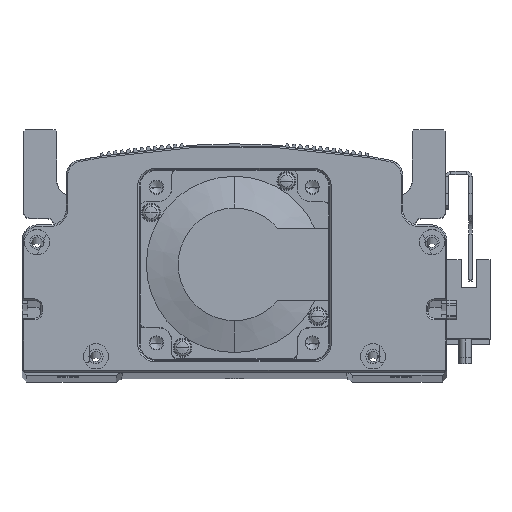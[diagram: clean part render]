
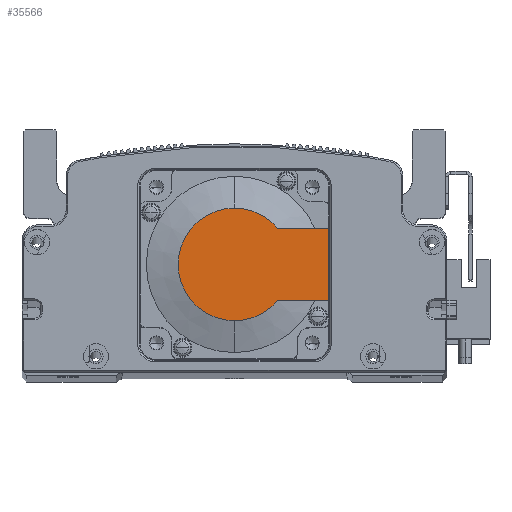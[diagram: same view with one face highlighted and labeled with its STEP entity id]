
A CAD part, top view. The second image highlights one B-rep face of the part: STEP entity #35566.
In plain terms, the highlighted planar face has unit normal (0, 0, 1) as drawn and (-1, 0, 0) by its records, which use the part's own axes.
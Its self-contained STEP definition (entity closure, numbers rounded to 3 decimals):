
#1544 = PLANE ( 'NONE',  #55848 ) ;
#1636 = DIRECTION ( 'NONE',  ( 0., 0., -1. ) ) ;
#2002 = CARTESIAN_POINT ( 'NONE',  ( -118.5, -8.941, 0. ) ) ;
#3613 = EDGE_LOOP ( 'NONE', ( #61997, #60047, #44376, #47763, #40219, #40871 ) ) ;
#4918 = CARTESIAN_POINT ( 'NONE',  ( -118.5, 30., -11.45 ) ) ;
#7545 = DIRECTION ( 'NONE',  ( 0., 0., 1. ) ) ;
#9042 = AXIS2_PLACEMENT_3D ( 'NONE', #69641, #20174, #52706 ) ;
#10648 = EDGE_CURVE ( 'NONE', #30078, #18039, #62584, .T. ) ;
#13603 = DIRECTION ( 'NONE',  ( -1., 0., 0. ) ) ;
#14035 = LINE ( 'NONE', #26525, #61060 ) ;
#17140 = FACE_OUTER_BOUND ( 'NONE', #3613, .T. ) ;
#18039 = VERTEX_POINT ( 'NONE', #64106 ) ;
#20174 = DIRECTION ( 'NONE',  ( -1., 0., 0. ) ) ;
#21126 = CARTESIAN_POINT ( 'NONE',  ( -118.5, 0., -17.881 ) ) ;
#24014 = CARTESIAN_POINT ( 'NONE',  ( -118.5, 0., 0. ) ) ;
#26525 = CARTESIAN_POINT ( 'NONE',  ( -118.5, 0., 11.45 ) ) ;
#29913 = CARTESIAN_POINT ( 'NONE',  ( -118.5, 13.735, 11.45 ) ) ;
#30078 = VERTEX_POINT ( 'NONE', #4918 ) ;
#30936 = VECTOR ( 'NONE', #57024, 1000. ) ;
#32018 = CIRCLE ( 'NONE', #9042, 17.881 ) ;
#33170 = EDGE_CURVE ( 'NONE', #33242, #42417, #32018, .T. ) ;
#33242 = VERTEX_POINT ( 'NONE', #21126 ) ;
#33462 = VECTOR ( 'NONE', #70102, 1000. ) ;
#34875 = VERTEX_POINT ( 'NONE', #45569 ) ;
#34954 = DIRECTION ( 'NONE',  ( -1., 0., 0. ) ) ;
#35566 = ADVANCED_FACE ( 'NONE', ( #17140 ), #1544, .T. ) ;
#40211 = DIRECTION ( 'NONE',  ( -1., 0., 0. ) ) ;
#40219 = ORIENTED_EDGE ( 'NONE', *, *, #49041, .F. ) ;
#40680 = DIRECTION ( 'NONE',  ( 0., 0., -1. ) ) ;
#40871 = ORIENTED_EDGE ( 'NONE', *, *, #49810, .F. ) ;
#42417 = VERTEX_POINT ( 'NONE', #42591 ) ;
#42591 = CARTESIAN_POINT ( 'NONE',  ( -118.5, 0., 17.881 ) ) ;
#43320 = EDGE_CURVE ( 'NONE', #42417, #57679, #69271, .T. ) ;
#43805 = LINE ( 'NONE', #45486, #30936 ) ;
#44376 = ORIENTED_EDGE ( 'NONE', *, *, #33170, .T. ) ;
#45486 = CARTESIAN_POINT ( 'NONE',  ( -118.5, 30., 25. ) ) ;
#45569 = CARTESIAN_POINT ( 'NONE',  ( -118.5, 30., 11.45 ) ) ;
#47763 = ORIENTED_EDGE ( 'NONE', *, *, #43320, .T. ) ;
#49041 = EDGE_CURVE ( 'NONE', #34875, #57679, #14035, .T. ) ;
#49810 = EDGE_CURVE ( 'NONE', #30078, #34875, #43805, .T. ) ;
#50684 = AXIS2_PLACEMENT_3D ( 'NONE', #67851, #13603, #1636 ) ;
#52706 = DIRECTION ( 'NONE',  ( 0., 0., -1. ) ) ;
#54787 = CIRCLE ( 'NONE', #57302, 17.881 ) ;
#55631 = EDGE_CURVE ( 'NONE', #18039, #33242, #54787, .T. ) ;
#55848 = AXIS2_PLACEMENT_3D ( 'NONE', #2002, #40211, #7545 ) ;
#57024 = DIRECTION ( 'NONE',  ( 0., 0., 1. ) ) ;
#57302 = AXIS2_PLACEMENT_3D ( 'NONE', #24014, #34954, #40680 ) ;
#57679 = VERTEX_POINT ( 'NONE', #29913 ) ;
#58641 = CARTESIAN_POINT ( 'NONE',  ( -118.5, -8.941, -11.45 ) ) ;
#60047 = ORIENTED_EDGE ( 'NONE', *, *, #55631, .T. ) ;
#61060 = VECTOR ( 'NONE', #70764, 1000. ) ;
#61997 = ORIENTED_EDGE ( 'NONE', *, *, #10648, .T. ) ;
#62584 = LINE ( 'NONE', #58641, #33462 ) ;
#64106 = CARTESIAN_POINT ( 'NONE',  ( -118.5, 13.735, -11.45 ) ) ;
#67851 = CARTESIAN_POINT ( 'NONE',  ( -118.5, 0., 0. ) ) ;
#69271 = CIRCLE ( 'NONE', #50684, 17.881 ) ;
#69641 = CARTESIAN_POINT ( 'NONE',  ( -118.5, 0., 0. ) ) ;
#70102 = DIRECTION ( 'NONE',  ( 0., -1., 0. ) ) ;
#70764 = DIRECTION ( 'NONE',  ( 0., -1., 0. ) ) ;
